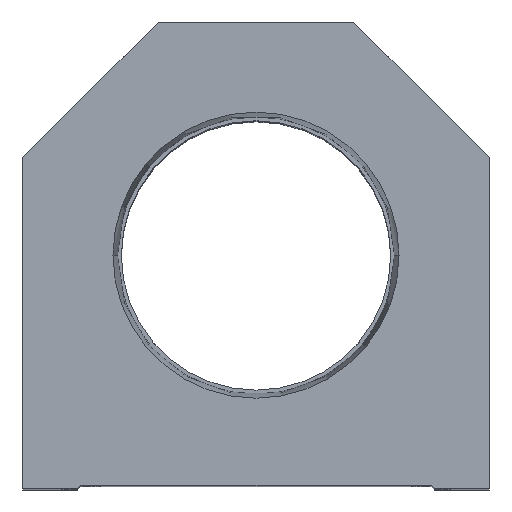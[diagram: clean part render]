
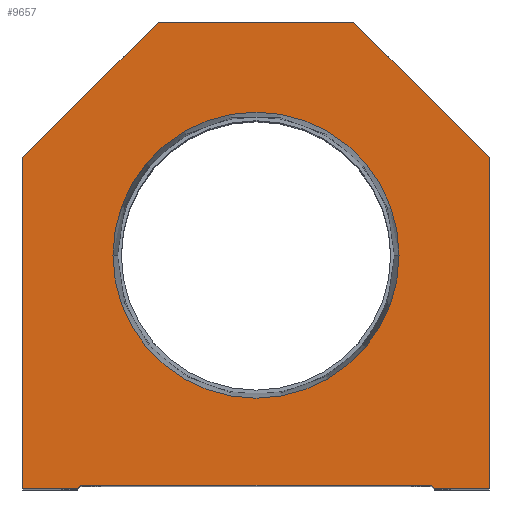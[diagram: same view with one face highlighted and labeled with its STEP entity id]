
A CAD part, top view. The second image highlights one B-rep face of the part: STEP entity #9657.
In plain terms, the highlighted planar face has unit normal (0, 0, 1).
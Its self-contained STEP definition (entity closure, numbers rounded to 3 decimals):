
#83 = CARTESIAN_POINT ( 'NONE',  ( 0., 0., 0. ) ) ;
#86 = CARTESIAN_POINT ( 'NONE',  ( 38.1, 54.1, 0. ) ) ;
#192 = ORIENTED_EDGE ( 'NONE', *, *, #5958, .T. ) ;
#281 = VECTOR ( 'NONE', #9878, 1000. ) ;
#528 = CARTESIAN_POINT ( 'NONE',  ( 14.55, 14.55, 0. ) ) ;
#675 = ORIENTED_EDGE ( 'NONE', *, *, #19236, .F. ) ;
#701 = VERTEX_POINT ( 'NONE', #16597 ) ;
#723 = EDGE_CURVE ( 'NONE', #15168, #3533, #11703, .T. ) ;
#877 = ORIENTED_EDGE ( 'NONE', *, *, #18201, .T. ) ;
#1057 = DIRECTION ( 'NONE',  ( 1., 0., 0. ) ) ;
#1718 = FACE_BOUND ( 'NONE', #18881, .T. ) ;
#1753 = VECTOR ( 'NONE', #13034, 1000. ) ;
#1953 = EDGE_CURVE ( 'NONE', #20410, #15542, #8734, .T. ) ;
#2006 = ORIENTED_EDGE ( 'NONE', *, *, #15171, .T. ) ;
#2044 = LINE ( 'NONE', #5435, #15805 ) ;
#2392 = DIRECTION ( 'NONE',  ( 1., 0., 0. ) ) ;
#2595 = CARTESIAN_POINT ( 'NONE',  ( 0., 38.1, 0. ) ) ;
#2628 = CARTESIAN_POINT ( 'NONE',  ( 16., 76.2, 0. ) ) ;
#3032 = CARTESIAN_POINT ( 'NONE',  ( 16., 76.2, 0. ) ) ;
#3168 = EDGE_CURVE ( 'NONE', #15542, #5538, #2044, .T. ) ;
#3352 = VERTEX_POINT ( 'NONE', #21566 ) ;
#3462 = DIRECTION ( 'NONE',  ( 1., 0., 0. ) ) ;
#3533 = VERTEX_POINT ( 'NONE', #11509 ) ;
#3571 = LINE ( 'NONE', #86, #12893 ) ;
#3639 = CARTESIAN_POINT ( 'NONE',  ( -38.1, 54.1, 0. ) ) ;
#5435 = CARTESIAN_POINT ( 'NONE',  ( -14.55, 14.55, 0. ) ) ;
#5459 = LINE ( 'NONE', #18844, #12765 ) ;
#5538 = VERTEX_POINT ( 'NONE', #7208 ) ;
#5801 = VECTOR ( 'NONE', #6833, 1000. ) ;
#5825 = ORIENTED_EDGE ( 'NONE', *, *, #1953, .T. ) ;
#5852 = VECTOR ( 'NONE', #15220, 1000. ) ;
#5942 = CARTESIAN_POINT ( 'NONE',  ( -38.1, 0., 0. ) ) ;
#5958 = EDGE_CURVE ( 'NONE', #9750, #3352, #10006, .T. ) ;
#6413 = LINE ( 'NONE', #3032, #1753 ) ;
#6700 = VERTEX_POINT ( 'NONE', #11786 ) ;
#6833 = DIRECTION ( 'NONE',  ( 1., 0., 0. ) ) ;
#7208 = CARTESIAN_POINT ( 'NONE',  ( -28.6, 0.5, 0. ) ) ;
#7253 = CIRCLE ( 'NONE', #13499, 23.374 ) ;
#7375 = CARTESIAN_POINT ( 'NONE',  ( 38.1, 0., 0. ) ) ;
#7961 = AXIS2_PLACEMENT_3D ( 'NONE', #83, #11731, #3462 ) ;
#8263 = CARTESIAN_POINT ( 'NONE',  ( -16., 76.2, 0. ) ) ;
#8336 = VERTEX_POINT ( 'NONE', #9626 ) ;
#8375 = FACE_OUTER_BOUND ( 'NONE', #14748, .T. ) ;
#8686 = LINE ( 'NONE', #7375, #5852 ) ;
#8734 = LINE ( 'NONE', #13632, #14639 ) ;
#9251 = DIRECTION ( 'NONE',  ( 0., 0., 1. ) ) ;
#9626 = CARTESIAN_POINT ( 'NONE',  ( 28.6, 0.5, 0. ) ) ;
#9638 = CARTESIAN_POINT ( 'NONE',  ( 38.1, 54.1, 0. ) ) ;
#9657 = ADVANCED_FACE ( 'NONE', ( #1718, #8375 ), #15014, .T. ) ;
#9750 = VERTEX_POINT ( 'NONE', #13228 ) ;
#9878 = DIRECTION ( 'NONE',  ( -0.707, -0.707, 0. ) ) ;
#9882 = CARTESIAN_POINT ( 'NONE',  ( -29.1, 0., 0. ) ) ;
#10006 = LINE ( 'NONE', #10117, #5801 ) ;
#10117 = CARTESIAN_POINT ( 'NONE',  ( 28.6, 0., 0. ) ) ;
#10154 = ORIENTED_EDGE ( 'NONE', *, *, #723, .T. ) ;
#11406 = EDGE_CURVE ( 'NONE', #5538, #8336, #5459, .T. ) ;
#11509 = CARTESIAN_POINT ( 'NONE',  ( -38.1, 54.1, 0. ) ) ;
#11703 = LINE ( 'NONE', #3639, #281 ) ;
#11731 = DIRECTION ( 'NONE',  ( 0., 0., 1. ) ) ;
#11786 = CARTESIAN_POINT ( 'NONE',  ( 23.374, 38.1, 0. ) ) ;
#11827 = VERTEX_POINT ( 'NONE', #2628 ) ;
#12013 = ORIENTED_EDGE ( 'NONE', *, *, #3168, .T. ) ;
#12765 = VECTOR ( 'NONE', #2392, 1000. ) ;
#12893 = VECTOR ( 'NONE', #18382, 1000. ) ;
#12906 = DIRECTION ( 'NONE',  ( 0., -1., 0. ) ) ;
#13034 = DIRECTION ( 'NONE',  ( -1., 0., 0. ) ) ;
#13228 = CARTESIAN_POINT ( 'NONE',  ( 29.1, 0., 0. ) ) ;
#13499 = AXIS2_PLACEMENT_3D ( 'NONE', #2595, #9251, #1057 ) ;
#13632 = CARTESIAN_POINT ( 'NONE',  ( -28.6, 0., 0. ) ) ;
#13643 = DIRECTION ( 'NONE',  ( 1., 0., 0. ) ) ;
#13816 = DIRECTION ( 'NONE',  ( 0.707, -0.707, 0. ) ) ;
#14113 = ORIENTED_EDGE ( 'NONE', *, *, #19389, .T. ) ;
#14159 = VECTOR ( 'NONE', #13816, 1000. ) ;
#14316 = ORIENTED_EDGE ( 'NONE', *, *, #11406, .T. ) ;
#14610 = DIRECTION ( 'NONE',  ( 0.707, 0.707, 0. ) ) ;
#14639 = VECTOR ( 'NONE', #17000, 1000. ) ;
#14748 = EDGE_LOOP ( 'NONE', ( #5825, #12013, #14316, #877, #192, #14113, #20752, #2006, #10154, #16154 ) ) ;
#15014 = PLANE ( 'NONE',  #7961 ) ;
#15168 = VERTEX_POINT ( 'NONE', #8263 ) ;
#15171 = EDGE_CURVE ( 'NONE', #11827, #15168, #6413, .T. ) ;
#15220 = DIRECTION ( 'NONE',  ( 0., 1., 0. ) ) ;
#15352 = EDGE_CURVE ( 'NONE', #20470, #11827, #3571, .T. ) ;
#15455 = LINE ( 'NONE', #528, #14159 ) ;
#15519 = EDGE_CURVE ( 'NONE', #3533, #20410, #17789, .T. ) ;
#15542 = VERTEX_POINT ( 'NONE', #9882 ) ;
#15805 = VECTOR ( 'NONE', #14610, 1000. ) ;
#16154 = ORIENTED_EDGE ( 'NONE', *, *, #15519, .T. ) ;
#16597 = CARTESIAN_POINT ( 'NONE',  ( -23.374, 38.1, 0. ) ) ;
#17000 = DIRECTION ( 'NONE',  ( 1., 0., 0. ) ) ;
#17789 = LINE ( 'NONE', #19768, #21254 ) ;
#17813 = ORIENTED_EDGE ( 'NONE', *, *, #20590, .F. ) ;
#18201 = EDGE_CURVE ( 'NONE', #8336, #9750, #15455, .T. ) ;
#18382 = DIRECTION ( 'NONE',  ( -0.707, 0.707, 0. ) ) ;
#18546 = DIRECTION ( 'NONE',  ( 0., 0., 1. ) ) ;
#18844 = CARTESIAN_POINT ( 'NONE',  ( -28.6, 0.5, 0. ) ) ;
#18881 = EDGE_LOOP ( 'NONE', ( #675, #17813 ) ) ;
#19236 = EDGE_CURVE ( 'NONE', #6700, #701, #7253, .T. ) ;
#19389 = EDGE_CURVE ( 'NONE', #3352, #20470, #8686, .T. ) ;
#19768 = CARTESIAN_POINT ( 'NONE',  ( -38.1, 0., 0. ) ) ;
#20189 = CARTESIAN_POINT ( 'NONE',  ( 0., 38.1, 0. ) ) ;
#20410 = VERTEX_POINT ( 'NONE', #5942 ) ;
#20470 = VERTEX_POINT ( 'NONE', #9638 ) ;
#20590 = EDGE_CURVE ( 'NONE', #701, #6700, #20658, .T. ) ;
#20658 = CIRCLE ( 'NONE', #21005, 23.374 ) ;
#20752 = ORIENTED_EDGE ( 'NONE', *, *, #15352, .T. ) ;
#21005 = AXIS2_PLACEMENT_3D ( 'NONE', #20189, #18546, #13643 ) ;
#21254 = VECTOR ( 'NONE', #12906, 1000. ) ;
#21566 = CARTESIAN_POINT ( 'NONE',  ( 38.1, 0., 0. ) ) ;
